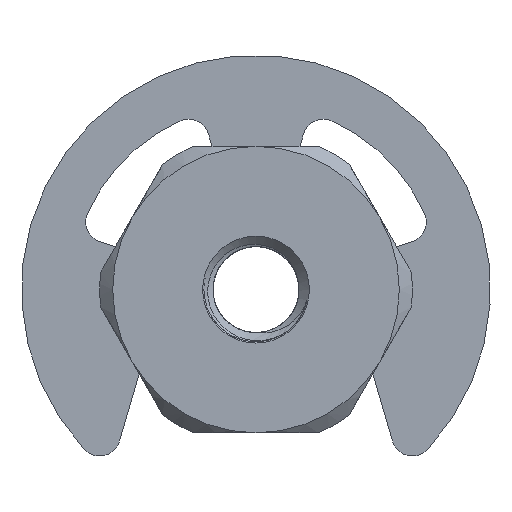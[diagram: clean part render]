
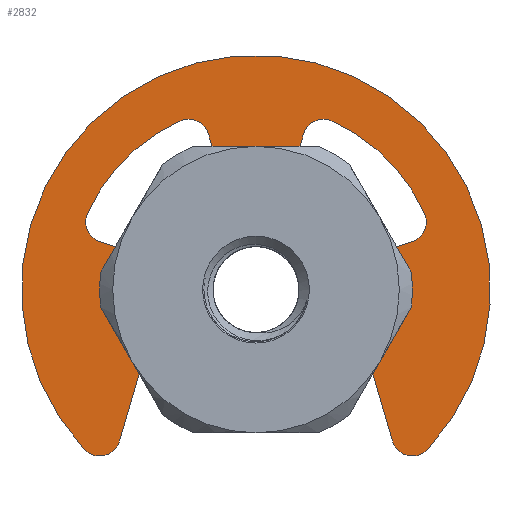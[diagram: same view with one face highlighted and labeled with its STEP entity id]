
A CAD part, front view. The second image highlights one B-rep face of the part: STEP entity #2832.
In plain terms, the highlighted planar face has unit normal (0, -1, 0) as drawn and (0, 0, 1) by its records, which use the part's own axes.
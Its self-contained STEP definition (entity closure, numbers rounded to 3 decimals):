
#232=PLANE('',#3042);
#278=FACE_OUTER_BOUND('',#442,.T.);
#442=EDGE_LOOP('',(#1885,#1886,#1887,#1888,#1889,#1890,#1891,#1892,#1893,
#1894,#1895,#1896,#1897,#1898,#1899,#1900,#1901,#1902,#1903,#1904,#1905,
#1906,#1907,#1908));
#597=LINE('',#3979,#769);
#603=LINE('',#4000,#775);
#609=LINE('',#4024,#781);
#615=LINE('',#4045,#787);
#623=LINE('',#4091,#795);
#624=LINE('',#4096,#796);
#769=VECTOR('',#3274,10.);
#775=VECTOR('',#3294,10.);
#781=VECTOR('',#3320,10.);
#787=VECTOR('',#3340,10.);
#795=VECTOR('',#3392,10.);
#796=VECTOR('',#3397,10.);
#939=CIRCLE('',#2996,0.8);
#941=CIRCLE('',#3000,0.5);
#943=CIRCLE('',#3003,0.8);
#945=CIRCLE('',#3007,0.5);
#947=CIRCLE('',#3010,9.);
#949=CIRCLE('',#3013,0.8);
#951=CIRCLE('',#3017,0.5);
#953=CIRCLE('',#3020,0.8);
#955=CIRCLE('',#3024,0.5);
#957=CIRCLE('',#3027,4.55);
#967=CIRCLE('',#3039,4.55);
#968=CIRCLE('',#3041,4.55);
#969=CIRCLE('',#3043,7.1);
#970=CIRCLE('',#3044,0.8);
#971=CIRCLE('',#3045,0.5);
#972=CIRCLE('',#3046,0.5);
#973=CIRCLE('',#3047,0.8);
#974=CIRCLE('',#3048,7.1);
#1043=VERTEX_POINT('',#3969);
#1044=VERTEX_POINT('',#3970);
#1047=VERTEX_POINT('',#3978);
#1049=VERTEX_POINT('',#3984);
#1051=VERTEX_POINT('',#3990);
#1052=VERTEX_POINT('',#3991);
#1055=VERTEX_POINT('',#3999);
#1057=VERTEX_POINT('',#4005);
#1059=VERTEX_POINT('',#4011);
#1061=VERTEX_POINT('',#4017);
#1063=VERTEX_POINT('',#4023);
#1065=VERTEX_POINT('',#4029);
#1067=VERTEX_POINT('',#4035);
#1068=VERTEX_POINT('',#4036);
#1071=VERTEX_POINT('',#4044);
#1073=VERTEX_POINT('',#4050);
#1083=VERTEX_POINT('',#4078);
#1084=VERTEX_POINT('',#4082);
#1085=VERTEX_POINT('',#4086);
#1086=VERTEX_POINT('',#4088);
#1087=VERTEX_POINT('',#4090);
#1088=VERTEX_POINT('',#4093);
#1089=VERTEX_POINT('',#4095);
#1090=VERTEX_POINT('',#4097);
#1343=EDGE_CURVE('',#1043,#1044,#939,.T.);
#1347=EDGE_CURVE('',#1044,#1047,#597,.T.);
#1350=EDGE_CURVE('',#1047,#1049,#941,.T.);
#1353=EDGE_CURVE('',#1051,#1052,#943,.T.);
#1357=EDGE_CURVE('',#1052,#1055,#603,.T.);
#1360=EDGE_CURVE('',#1055,#1057,#945,.T.);
#1363=EDGE_CURVE('',#1059,#1043,#947,.T.);
#1366=EDGE_CURVE('',#1059,#1061,#949,.T.);
#1369=EDGE_CURVE('',#1061,#1063,#609,.T.);
#1372=EDGE_CURVE('',#1063,#1065,#951,.T.);
#1375=EDGE_CURVE('',#1067,#1068,#953,.T.);
#1379=EDGE_CURVE('',#1068,#1071,#615,.T.);
#1382=EDGE_CURVE('',#1071,#1073,#955,.T.);
#1385=EDGE_CURVE('',#1073,#1057,#957,.T.);
#1398=EDGE_CURVE('',#1049,#1083,#967,.T.);
#1399=EDGE_CURVE('',#1065,#1084,#968,.T.);
#1401=EDGE_CURVE('',#1085,#1067,#969,.T.);
#1402=EDGE_CURVE('',#1086,#1085,#970,.T.);
#1403=EDGE_CURVE('',#1087,#1086,#623,.T.);
#1404=EDGE_CURVE('',#1084,#1087,#971,.T.);
#1405=EDGE_CURVE('',#1083,#1088,#972,.T.);
#1406=EDGE_CURVE('',#1088,#1089,#624,.T.);
#1407=EDGE_CURVE('',#1089,#1090,#973,.T.);
#1408=EDGE_CURVE('',#1090,#1051,#974,.T.);
#1885=ORIENTED_EDGE('',*,*,#1401,.F.);
#1886=ORIENTED_EDGE('',*,*,#1402,.F.);
#1887=ORIENTED_EDGE('',*,*,#1403,.F.);
#1888=ORIENTED_EDGE('',*,*,#1404,.F.);
#1889=ORIENTED_EDGE('',*,*,#1399,.F.);
#1890=ORIENTED_EDGE('',*,*,#1372,.F.);
#1891=ORIENTED_EDGE('',*,*,#1369,.F.);
#1892=ORIENTED_EDGE('',*,*,#1366,.F.);
#1893=ORIENTED_EDGE('',*,*,#1363,.T.);
#1894=ORIENTED_EDGE('',*,*,#1343,.T.);
#1895=ORIENTED_EDGE('',*,*,#1347,.T.);
#1896=ORIENTED_EDGE('',*,*,#1350,.T.);
#1897=ORIENTED_EDGE('',*,*,#1398,.T.);
#1898=ORIENTED_EDGE('',*,*,#1405,.T.);
#1899=ORIENTED_EDGE('',*,*,#1406,.T.);
#1900=ORIENTED_EDGE('',*,*,#1407,.T.);
#1901=ORIENTED_EDGE('',*,*,#1408,.T.);
#1902=ORIENTED_EDGE('',*,*,#1353,.T.);
#1903=ORIENTED_EDGE('',*,*,#1357,.T.);
#1904=ORIENTED_EDGE('',*,*,#1360,.T.);
#1905=ORIENTED_EDGE('',*,*,#1385,.F.);
#1906=ORIENTED_EDGE('',*,*,#1382,.F.);
#1907=ORIENTED_EDGE('',*,*,#1379,.F.);
#1908=ORIENTED_EDGE('',*,*,#1375,.F.);
#2832=ADVANCED_FACE('',(#278),#232,.T.);
#2996=AXIS2_PLACEMENT_3D('',#3971,#3266,#3267);
#3000=AXIS2_PLACEMENT_3D('',#3985,#3279,#3280);
#3003=AXIS2_PLACEMENT_3D('',#3992,#3286,#3287);
#3007=AXIS2_PLACEMENT_3D('',#4006,#3299,#3300);
#3010=AXIS2_PLACEMENT_3D('',#4012,#3306,#3307);
#3013=AXIS2_PLACEMENT_3D('',#4018,#3313,#3314);
#3017=AXIS2_PLACEMENT_3D('',#4030,#3325,#3326);
#3020=AXIS2_PLACEMENT_3D('',#4037,#3332,#3333);
#3024=AXIS2_PLACEMENT_3D('',#4051,#3345,#3346);
#3027=AXIS2_PLACEMENT_3D('',#4056,#3352,#3353);
#3039=AXIS2_PLACEMENT_3D('',#4080,#3379,#3380);
#3041=AXIS2_PLACEMENT_3D('',#4083,#3383,#3384);
#3042=AXIS2_PLACEMENT_3D('',#4085,#3386,#3387);
#3043=AXIS2_PLACEMENT_3D('',#4087,#3388,#3389);
#3044=AXIS2_PLACEMENT_3D('',#4089,#3390,#3391);
#3045=AXIS2_PLACEMENT_3D('',#4092,#3393,#3394);
#3046=AXIS2_PLACEMENT_3D('',#4094,#3395,#3396);
#3047=AXIS2_PLACEMENT_3D('',#4098,#3398,#3399);
#3048=AXIS2_PLACEMENT_3D('',#4099,#3400,#3401);
#3266=DIRECTION('center_axis',(0.,0.,1.));
#3267=DIRECTION('ref_axis',(0.96,-0.28,0.));
#3274=DIRECTION('',(0.28,0.96,0.));
#3279=DIRECTION('center_axis',(0.,0.,1.));
#3280=DIRECTION('ref_axis',(0.919,0.394,0.));
#3286=DIRECTION('center_axis',(0.,0.,-1.));
#3287=DIRECTION('ref_axis',(-0.411,0.911,0.));
#3294=DIRECTION('',(0.292,-0.956,0.));
#3299=DIRECTION('center_axis',(0.,0.,1.));
#3300=DIRECTION('ref_axis',(0.196,-0.981,0.));
#3306=DIRECTION('center_axis',(0.,0.,1.));
#3307=DIRECTION('ref_axis',(-1.,0.,0.));
#3313=DIRECTION('center_axis',(0.,0.,-1.));
#3314=DIRECTION('ref_axis',(-0.96,-0.28,0.));
#3320=DIRECTION('',(-0.28,0.96,0.));
#3325=DIRECTION('center_axis',(0.,0.,-1.));
#3326=DIRECTION('ref_axis',(-0.919,0.394,0.));
#3332=DIRECTION('center_axis',(0.,0.,1.));
#3333=DIRECTION('ref_axis',(0.411,0.911,0.));
#3340=DIRECTION('',(-0.292,-0.956,0.));
#3345=DIRECTION('center_axis',(0.,0.,-1.));
#3346=DIRECTION('ref_axis',(-0.196,-0.981,0.));
#3352=DIRECTION('center_axis',(0.,0.,1.));
#3353=DIRECTION('ref_axis',(1.,0.,0.));
#3379=DIRECTION('center_axis',(0.,0.,-1.));
#3380=DIRECTION('ref_axis',(-1.,0.,0.));
#3383=DIRECTION('center_axis',(0.,0.,1.));
#3384=DIRECTION('ref_axis',(1.,0.,0.));
#3386=DIRECTION('center_axis',(0.,0.,1.));
#3387=DIRECTION('ref_axis',(1.,0.,0.));
#3388=DIRECTION('center_axis',(0.,0.,1.));
#3389=DIRECTION('ref_axis',(0.911,0.412,0.));
#3390=DIRECTION('center_axis',(0.,0.,1.));
#3391=DIRECTION('ref_axis',(0.293,-0.956,0.));
#3392=DIRECTION('',(0.956,0.293,0.));
#3393=DIRECTION('center_axis',(0.,0.,-1.));
#3394=DIRECTION('ref_axis',(-0.293,0.956,0.));
#3395=DIRECTION('center_axis',(0.,0.,1.));
#3396=DIRECTION('ref_axis',(0.293,0.956,0.));
#3397=DIRECTION('',(-0.956,0.293,0.));
#3398=DIRECTION('center_axis',(0.,0.,-1.));
#3399=DIRECTION('ref_axis',(-0.293,-0.956,0.));
#3400=DIRECTION('center_axis',(0.,0.,-1.));
#3401=DIRECTION('ref_axis',(-0.911,0.412,0.));
#3969=CARTESIAN_POINT('',(-6.589,-6.131,1.));
#3970=CARTESIAN_POINT('',(-5.235,-5.81,1.));
#3971=CARTESIAN_POINT('Origin',(-6.003,-5.586,1.));
#3978=CARTESIAN_POINT('',(-4.162,-2.129,1.));
#3979=CARTESIAN_POINT('',(-3.714,-0.591,1.));
#3984=CARTESIAN_POINT('',(-4.182,-1.792,1.));
#3985=CARTESIAN_POINT('Origin',(-4.642,-1.989,1.));
#3990=CARTESIAN_POINT('',(-2.921,6.471,1.));
#3991=CARTESIAN_POINT('',(-1.827,5.976,1.));
#3992=CARTESIAN_POINT('Origin',(-2.592,5.742,1.));
#3999=CARTESIAN_POINT('',(-1.469,4.806,1.));
#4000=CARTESIAN_POINT('',(-1.11,3.63,1.));
#4005=CARTESIAN_POINT('',(-0.893,4.462,1.));
#4006=CARTESIAN_POINT('Origin',(-0.991,4.952,1.));
#4011=CARTESIAN_POINT('',(6.589,-6.131,1.));
#4012=CARTESIAN_POINT('Origin',(0.,0.,1.));
#4017=CARTESIAN_POINT('',(5.235,-5.81,1.));
#4018=CARTESIAN_POINT('Origin',(6.003,-5.586,1.));
#4023=CARTESIAN_POINT('',(4.162,-2.129,1.));
#4024=CARTESIAN_POINT('',(3.714,-0.591,1.));
#4029=CARTESIAN_POINT('',(4.182,-1.792,1.));
#4030=CARTESIAN_POINT('Origin',(4.642,-1.989,1.));
#4035=CARTESIAN_POINT('',(2.921,6.471,1.));
#4036=CARTESIAN_POINT('',(1.827,5.976,1.));
#4037=CARTESIAN_POINT('Origin',(2.592,5.742,1.));
#4044=CARTESIAN_POINT('',(1.469,4.806,1.));
#4045=CARTESIAN_POINT('',(1.11,3.63,1.));
#4050=CARTESIAN_POINT('',(0.893,4.462,1.));
#4051=CARTESIAN_POINT('Origin',(0.991,4.952,1.));
#4056=CARTESIAN_POINT('Origin',(0.,0.,1.));
#4078=CARTESIAN_POINT('',(-4.461,0.894,1.));
#4080=CARTESIAN_POINT('Origin',(0.,0.,1.));
#4082=CARTESIAN_POINT('',(4.461,0.894,1.));
#4083=CARTESIAN_POINT('Origin',(0.,0.,1.));
#4085=CARTESIAN_POINT('Origin',(4.5,1.307,1.));
#4086=CARTESIAN_POINT('',(6.47,2.923,1.));
#4087=CARTESIAN_POINT('Origin',(0.,0.,1.));
#4088=CARTESIAN_POINT('',(5.975,1.829,1.));
#4089=CARTESIAN_POINT('Origin',(5.741,2.594,1.));
#4090=CARTESIAN_POINT('',(4.805,1.471,1.));
#4091=CARTESIAN_POINT('',(5.228,1.6,1.));
#4092=CARTESIAN_POINT('Origin',(4.951,0.993,1.));
#4093=CARTESIAN_POINT('',(-4.805,1.471,1.));
#4094=CARTESIAN_POINT('Origin',(-4.951,0.993,1.));
#4095=CARTESIAN_POINT('',(-5.975,1.829,1.));
#4096=CARTESIAN_POINT('',(-5.228,1.6,1.));
#4097=CARTESIAN_POINT('',(-6.47,2.923,1.));
#4098=CARTESIAN_POINT('Origin',(-5.741,2.594,1.));
#4099=CARTESIAN_POINT('Origin',(0.,0.,1.));
